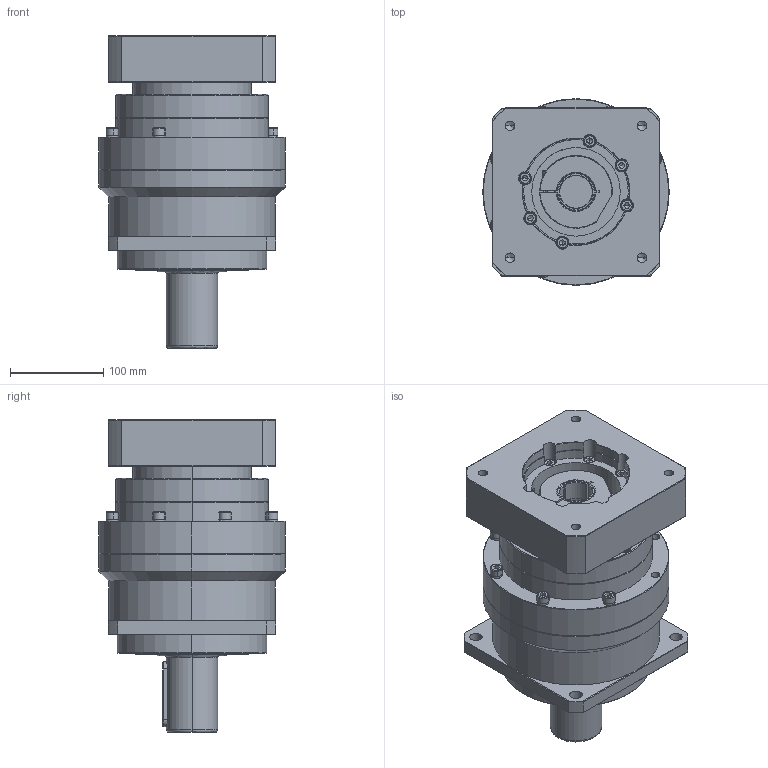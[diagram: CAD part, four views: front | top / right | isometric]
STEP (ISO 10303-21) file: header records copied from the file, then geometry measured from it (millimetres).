
FILE_DESCRIPTION (( 'STEP AP214' ), '1' );
FILE_NAME ('VRB-180-L2-S2-P1 35-114.3-200-M12.STEP', '2023-08-14T05:07:14', ( '微软用户' ), ( '微软中国' ), 'SwSTEP 2.0', 'SolidWorks 2018', '' );
FILE_SCHEMA (( 'AUTOMOTIVE_DESIGN' ));
Length unit declared in the file: millimetre
Products named in the file (12): hexagon socket head cap screws gb_GB_FASTENER_SCREWS_HSHCS M8X50-N; VRB-180一级齿圈加出轴外形图; 一级整体太阳轮VRB-142-D35外形图; hexagon socket head cap screws gb_GB_FASTENER_SCREWS_HSHCS M10X35-N; hex socket set screws with flat point gb_GB_FASTENER_SCREWS_HSFP M16X16-N; spring lock washers--normal type gb_GB_FASTENER_WASHER_SW 8; VRB-180二级齿圈外形图; hexagon socket head cap screws gb_GB_FASTENER_SCREWS_HSHCS M8X30-N; 萇儂楊擘VRB-142-114.3-M12-200F180H47; 標杶D40 VRB-142-35謂蚚; VRB-180二级中间法兰外形图; VRB-180-L2-S2-P1 35-114.3-200-M12
Assembly tree (44 placements, depth 2):
  VRB-180-L2-S2-P1 35-114.3-200-M12
    一级整体太阳轮VRB-142-D35外形图
    標杶D40 VRB-142-35謂蚚
    萇儂楊擘VRB-142-114.3-M12-200F180H47
    VRB-180二级中间法兰外形图
    VRB-180二级齿圈外形图
    hexagon socket head cap screws gb_GB_FASTENER_SCREWS_HSHCS M8X30-N  x12
    spring lock washers--normal type gb_GB_FASTENER_WASHER_SW 8  x18
    hexagon socket head cap screws gb_GB_FASTENER_SCREWS_HSHCS M8X50-N  x6
    hexagon socket head cap screws gb_GB_FASTENER_SCREWS_HSHCS M10X35-N
    hex socket set screws with flat point gb_GB_FASTENER_SCREWS_HSFP M16X16-N
    VRB-180一级齿圈加出轴外形图
Bounding box: 200 x 200 x 335.5 mm (x, y, z)
Volume: 6389513.4 mm3; surface area: 513559.8 mm2
Topology: 44 solids, 44 shells, 1164 faces, 2784 edges, 1721 vertices
Faces by surface type: plane 504, cylinder 424, cone 192, bspline 44
Entity records: 18916 total; most frequent: CARTESIAN_POINT 3776, DIRECTION 3292, ORIENTED_EDGE 2884, EDGE_CURVE 1442, AXIS2_PLACEMENT_3D 1329, VERTEX_POINT 921, EDGE_LOOP 703, CIRCLE 700
